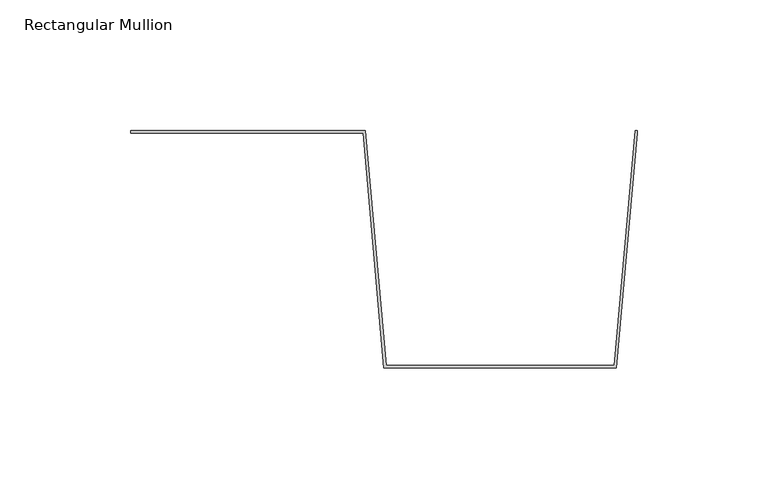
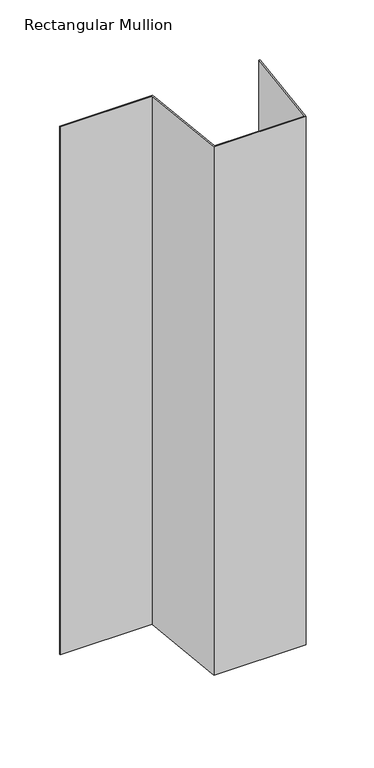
"""IFC4 building model written with IfcOpenShell, lengths in millimetres: member geometry, Rectangular Mullion : CD_NINELINE_Box Intermediate."""

from ifc_helpers import new_model, si_unit, frame, origin, place, context, project, spatial, polyline, outline, extrude, source, transform, mapped, element, save


def rectangular_mullion_3ec16531(model_context):
    return source(origin(), model_context, "Body", "SweptSolid", [
        extrude(outline(polyline([(0.0, 0.0), (89.911879, 0.0), (97.911879, -90.0), (185.088121, -90.0), (193.088121, 0.0), (194.0, 0.0), (194.0, -1.0357186), (186.0, -91.0357186), (97.0, -91.0357186), (88.996825, -1.0), (0.0, -1.0), (0.0, 0.0)])), frame((0.0, 0.0, -540.0), z_axis=(0.0, 0.0, 1.0), x_axis=(1.0, 0.0, 0.0)), (0.0, 0.0, 1.0), 540.0),
    ])


if __name__ == "__main__":
    model = new_model("IFC4")
    model_context = context("Model", 3, world=origin())
    ifc_project = project(units=[si_unit("LENGTHUNIT", "METRE", prefix="MILLI")], contexts=[model_context])
    site = spatial("IfcSite", under=ifc_project)
    building = spatial("IfcBuilding", under=site)
    placement = place(None, origin())
    rectangular_mullion_shape = rectangular_mullion_3ec16531(model_context)
    element("IfcMember", 1, ObjectType="Rectangular Mullion : CD_NINELINE_Box Intermediate", at=placement, inside=building, context=model_context, shape_type="MappedRepresentation", body=[
        mapped(rectangular_mullion_shape, transform((0.0, 0.0, 0.0), x_axis=(1.0, 0.0, 0.0), y_axis=(0.0, 1.0, 0.0), z_axis=(0.0, 0.0, 1.0))),
    ])
    save(model, "model.ifc")
